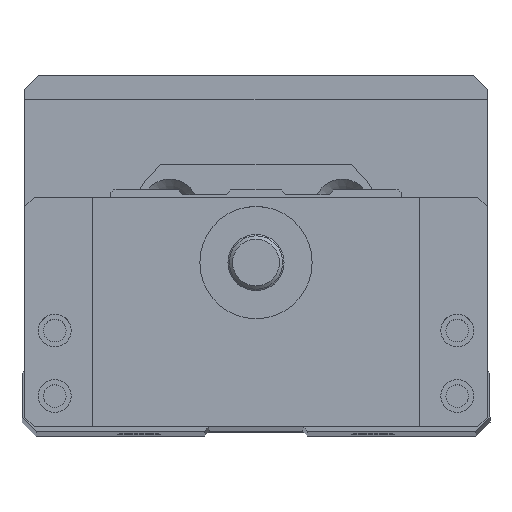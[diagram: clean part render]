
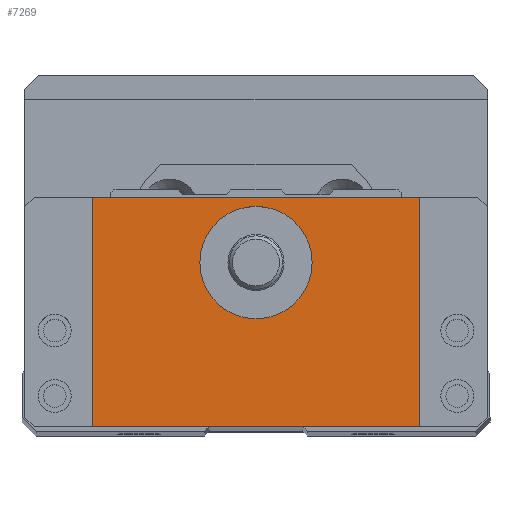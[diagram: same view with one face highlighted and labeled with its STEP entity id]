
A CAD part, top view. The second image highlights one B-rep face of the part: STEP entity #7269.
In plain terms, the highlighted planar face has unit normal (0, 0, 1).
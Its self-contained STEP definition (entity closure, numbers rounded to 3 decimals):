
#4880=LINE('',#19710,#5743);
#4882=LINE('',#19716,#5745);
#4883=LINE('',#19719,#5746);
#4884=LINE('',#19720,#5747);
#5743=VECTOR('',#16664,1.);
#5745=VECTOR('',#16670,1.);
#5746=VECTOR('',#16671,1.);
#5747=VECTOR('',#16672,1.);
#6825=FACE_BOUND('',#8715,.T.);
#6826=FACE_BOUND('',#8716,.T.);
#7269=ADVANCED_FACE('',(#6825,#6826),#7913,.T.);
#7913=PLANE('',#15559);
#8715=EDGE_LOOP('',(#9609));
#8716=EDGE_LOOP('',(#9610,#9611,#9612,#9613));
#9609=ORIENTED_EDGE('',*,*,#13627,.T.);
#9610=ORIENTED_EDGE('',*,*,#13628,.T.);
#9611=ORIENTED_EDGE('',*,*,#13629,.T.);
#9612=ORIENTED_EDGE('',*,*,#13625,.T.);
#9613=ORIENTED_EDGE('',*,*,#13630,.T.);
#12584=VERTEX_POINT('',#19709);
#12585=VERTEX_POINT('',#19711);
#12586=VERTEX_POINT('',#19715);
#12587=VERTEX_POINT('',#19717);
#12588=VERTEX_POINT('',#19718);
#13625=EDGE_CURVE('',#12585,#12584,#4880,.T.);
#13627=EDGE_CURVE('',#12586,#12586,#15109,.T.);
#13628=EDGE_CURVE('',#12587,#12588,#4882,.T.);
#13629=EDGE_CURVE('',#12588,#12585,#4883,.T.);
#13630=EDGE_CURVE('',#12584,#12587,#4884,.T.);
#15109=CIRCLE('',#15558,6.);
#15558=AXIS2_PLACEMENT_3D('',#19714,#16668,#16669);
#15559=AXIS2_PLACEMENT_3D('',#19721,#16673,#16674);
#16664=DIRECTION('',(-1.,0.,0.));
#16668=DIRECTION('',(0.,0.,-1.));
#16669=DIRECTION('',(1.,0.,0.));
#16670=DIRECTION('',(1.,0.,0.));
#16671=DIRECTION('',(0.,1.,0.));
#16672=DIRECTION('',(0.,-1.,0.));
#16673=DIRECTION('',(0.,0.,1.));
#16674=DIRECTION('',(1.,0.,0.));
#19709=CARTESIAN_POINT('',(-17.5,-15.5,151.5));
#19710=CARTESIAN_POINT('',(24.7,-15.5,151.5));
#19711=CARTESIAN_POINT('',(17.5,-15.5,151.5));
#19714=CARTESIAN_POINT('',(0.,-22.5,151.5));
#19715=CARTESIAN_POINT('',(6.,-22.5,151.5));
#19716=CARTESIAN_POINT('',(-24.7,-40.,151.5));
#19717=CARTESIAN_POINT('',(-17.5,-40.,151.5));
#19718=CARTESIAN_POINT('',(17.5,-40.,151.5));
#19719=CARTESIAN_POINT('',(17.5,-40.,151.5));
#19720=CARTESIAN_POINT('',(-17.5,-40.,151.5));
#19721=CARTESIAN_POINT('',(24.7,-40.,151.5));
